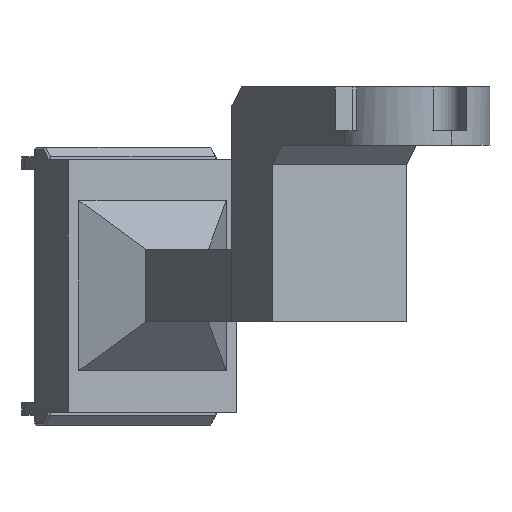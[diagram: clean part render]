
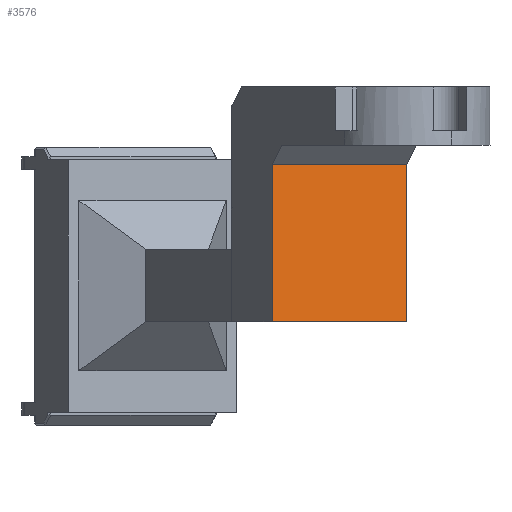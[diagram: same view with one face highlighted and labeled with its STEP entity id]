
A CAD part, left-side view. The second image highlights one B-rep face of the part: STEP entity #3576.
In plain terms, the highlighted planar face has unit normal (-0.866, -0.5, 0) as drawn and (-1, 0, 0) by its records, which use the part's own axes.
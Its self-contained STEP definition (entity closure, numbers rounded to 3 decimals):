
#120 = CARTESIAN_POINT ( 'NONE',  ( -7.71, -11.2, -21.25 ) ) ;
#146 = PLANE ( 'NONE',  #2002 ) ;
#954 = ORIENTED_EDGE ( 'NONE', *, *, #3581, .T. ) ;
#1231 = ORIENTED_EDGE ( 'NONE', *, *, #1427, .T. ) ;
#1270 = EDGE_LOOP ( 'NONE', ( #954, #1231, #2691, #3763 ) ) ;
#1279 = LINE ( 'NONE', #4665, #1595 ) ;
#1427 = EDGE_CURVE ( 'NONE', #4709, #3627, #1279, .T. ) ;
#1595 = VECTOR ( 'NONE', #2824, 1000. ) ;
#1709 = LINE ( 'NONE', #4717, #4111 ) ;
#1850 = VECTOR ( 'NONE', #3444, 1000. ) ;
#2002 = AXIS2_PLACEMENT_3D ( 'NONE', #3143, #4599, #4230 ) ;
#2036 = VERTEX_POINT ( 'NONE', #2860 ) ;
#2152 = EDGE_CURVE ( 'NONE', #2036, #3334, #1709, .T. ) ;
#2367 = FACE_OUTER_BOUND ( 'NONE', #1270, .T. ) ;
#2691 = ORIENTED_EDGE ( 'NONE', *, *, #3932, .F. ) ;
#2824 = DIRECTION ( 'NONE',  ( 0., 1., 0. ) ) ;
#2858 = VECTOR ( 'NONE', #4303, 1000. ) ;
#2860 = CARTESIAN_POINT ( 'NONE',  ( -7.71, 4.8, -7.44 ) ) ;
#3143 = CARTESIAN_POINT ( 'NONE',  ( -7.71, -63.231, -21.25 ) ) ;
#3334 = VERTEX_POINT ( 'NONE', #4469 ) ;
#3444 = DIRECTION ( 'NONE',  ( 0., 0., 1. ) ) ;
#3576 = ADVANCED_FACE ( 'NONE', ( #2367 ), #146, .T. ) ;
#3581 = EDGE_CURVE ( 'NONE', #3334, #4709, #4211, .T. ) ;
#3627 = VERTEX_POINT ( 'NONE', #4252 ) ;
#3763 = ORIENTED_EDGE ( 'NONE', *, *, #2152, .T. ) ;
#3932 = EDGE_CURVE ( 'NONE', #2036, #3627, #4207, .T. ) ;
#3985 = DIRECTION ( 'NONE',  ( 0., -1., 0. ) ) ;
#4111 = VECTOR ( 'NONE', #3985, 1000. ) ;
#4207 = LINE ( 'NONE', #4635, #1850 ) ;
#4211 = LINE ( 'NONE', #120, #2858 ) ;
#4230 = DIRECTION ( 'NONE',  ( 0., 0., 1. ) ) ;
#4252 = CARTESIAN_POINT ( 'NONE',  ( -7.71, 4.8, 8.75 ) ) ;
#4303 = DIRECTION ( 'NONE',  ( 0., 0., 1. ) ) ;
#4469 = CARTESIAN_POINT ( 'NONE',  ( -7.71, -11.2, -7.44 ) ) ;
#4550 = CARTESIAN_POINT ( 'NONE',  ( -7.71, -11.2, 8.75 ) ) ;
#4599 = DIRECTION ( 'NONE',  ( -1., 0., 0. ) ) ;
#4635 = CARTESIAN_POINT ( 'NONE',  ( -7.71, 4.8, -21.25 ) ) ;
#4665 = CARTESIAN_POINT ( 'NONE',  ( -7.71, -63.231, 8.75 ) ) ;
#4709 = VERTEX_POINT ( 'NONE', #4550 ) ;
#4717 = CARTESIAN_POINT ( 'NONE',  ( -7.71, -11.2, -7.44 ) ) ;
